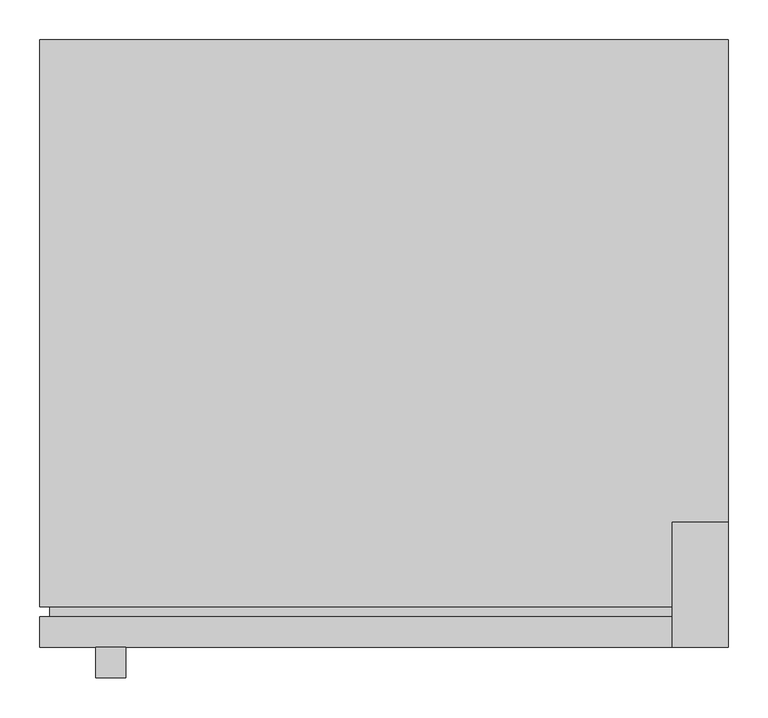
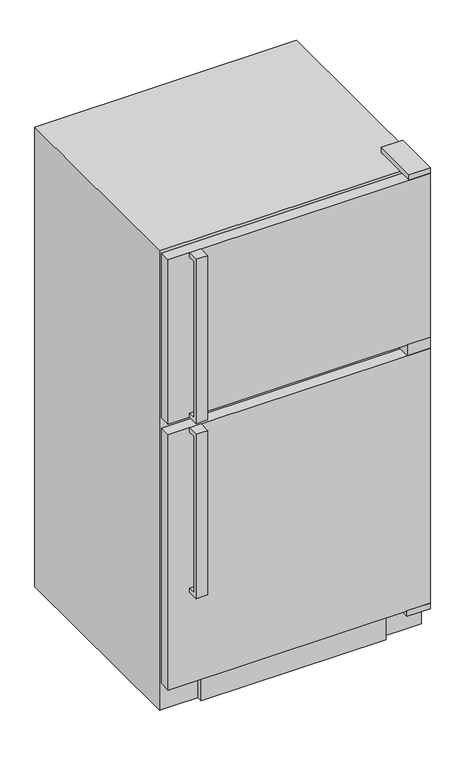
"""IFC4 building model written with IfcOpenShell, lengths in millimetres: proxy geometry, R7000 - Refrigerator, 14 Cubic Feet1 : R7000 - Refrigerator, 14 Cubic Feet 2."""

from ifc_helpers import new_model, si_unit, point, frame, frame_2d, origin, origin_with_axes, place, context, project, spatial, polyline, circle_curve, trimmed, segment, composite_curve, outline, extrude, source, transform, mapped, element, save


def specialty_equipment_468ee7b3(model_context):
    return source(origin(), model_context, "Body", "SweptSolid", [
        extrude(outline(polyline([(-381.0, 1016.0), (-342.9, 1016.0), (-342.9, 1001.1256358), (-368.3159299, 1001.1256358), (-368.3159299, 457.3433737), (-342.9, 457.3433737), (-342.9, 443.3974927), (-381.0, 443.3974927), (-381.0, 1016.0)])), frame((-361.95, 0.0, 0.0), z_axis=(1.0, 0.0, 0.0), x_axis=(0.0, 1.0, 0.0)), (0.0, 0.0, 1.0), 38.1),
        extrude(outline(polyline([(-381.0, 1625.6), (-342.9, 1625.6), (-342.9, 1610.7256358), (-368.3159299, 1610.7256358), (-368.3159299, 1066.9433737), (-342.9, 1066.9433737), (-342.9, 1052.9974927), (-381.0, 1052.9974927), (-381.0, 1625.6)])), frame((-361.95, 0.0, 0.0), z_axis=(1.0, 0.0, 0.0), x_axis=(0.0, 1.0, 0.0)), (0.0, 0.0, 1.0), 38.1),
        extrude(outline(polyline([(431.8, -342.9), (355.4130819, -342.9), (355.4130819, -292.1), (431.8, -292.1), (431.8, -342.9)])), frame((0.0, 0.0, 107.8907444), z_axis=(0.0, 0.0, 1.0), x_axis=(1.0, 0.0, 0.0)), (0.0, 0.0, 1.0), 19.05),
        extrude(outline(polyline([(431.8, -342.9), (356.3726256, -342.9), (356.3726256, -292.1), (431.8, -292.1), (431.8, -342.9)])), frame((0.0, 0.0, 1015.9039339), z_axis=(0.0, 0.0, 1.0), x_axis=(1.0, 0.0, 0.0)), (0.0, 0.0, 1.0), 37.0935588),
        extrude(outline(polyline([(304.8, -292.1), (304.8, -311.15), (-304.8, -311.15), (-304.8, -292.1), (304.8, -292.1)])), frame((0.0, 0.0, 25.4), z_axis=(0.0, 0.0, 1.0), x_axis=(1.0, 0.0, 0.0)), (0.0, 0.0, 1.0), 82.55),
        extrude(outline(polyline([(431.8, -342.9), (361.95, -342.9), (361.95, -186.0315495), (431.8, -186.0315495), (431.8, -342.9)])), frame((0.0, 0.0, 1625.6581185), z_axis=(0.0, 0.0, 1.0), x_axis=(1.0, 0.0, 0.0)), (0.0, 0.0, 1.0), 19.05),
        extrude(outline(polyline([(419.1, -304.8), (-419.1, -304.8), (-419.1, -292.1), (419.1, -292.1), (419.1, -304.8)])), frame((0.0, 0.0, 1062.6629034), z_axis=(0.0, 0.0, 1.0), x_axis=(1.0, 0.0, 0.0)), (0.0, 0.0, 1.0), 548.0627325),
        extrude(outline(polyline([(431.8, -342.9), (-431.8, -342.9), (-431.8, -304.8), (431.8, -304.8), (431.8, -342.9)])), frame((0.0, 0.0, 1052.9974927), z_axis=(0.0, 0.0, 1.0), x_axis=(1.0, 0.0, 0.0)), (0.0, 0.0, 1.0), 572.6025073),
        extrude(outline(polyline([(419.1, -304.8), (-419.1, -304.8), (-419.1, -292.1), (419.1, -292.1), (419.1, -304.8)])), frame((0.0, 0.0, 149.0357475), z_axis=(0.0, 0.0, 1.0), x_axis=(1.0, 0.0, 0.0)), (0.0, 0.0, 1.0), 855.7147074),
        extrude(outline(polyline([(431.8, -342.9), (-431.8, -342.9), (-431.8, -304.8), (431.8, -304.8), (431.8, -342.9)])), frame((0.0, 0.0, 126.9407444), z_axis=(0.0, 0.0, 1.0), x_axis=(1.0, 0.0, 0.0)), (0.0, 0.0, 1.0), 888.9631895),
        extrude(outline(polyline([(431.8, 419.1), (431.8, -292.1), (-431.8, -292.1), (-431.8, 419.1), (431.8, 419.1)])), frame((0.0, 0.0, 25.4), z_axis=(0.0, 0.0, 1.0), x_axis=(1.0, 0.0, 0.0)), (0.0, 0.0, 1.0), 1600.2),
        extrude(outline(composite_curve([segment(trimmed(circle_curve(frame_2d((-358.6775617, -224.3320241)), 31.75), [point((-326.9275617, -224.3320241))], [point((-390.4275617, -224.3320241))], False, "CARTESIAN"), True, "CONTINUOUS"), segment(trimmed(circle_curve(frame_2d((-358.6775617, -224.3320241)), 31.75), [point((-390.4275617, -224.3320241))], [point((-326.9275617, -224.3320241))], False, "CARTESIAN"), True, "CONTINUOUS")], self_intersect=False)), origin_with_axes(), (0.0, 0.0, 1.0), 25.4),
        extrude(outline(composite_curve([segment(trimmed(circle_curve(frame_2d((358.6775617, -224.3320241)), 31.75), [point((326.9275617, -224.3320241))], [point((390.4275617, -224.3320241))], False, "CARTESIAN"), True, "CONTINUOUS"), segment(trimmed(circle_curve(frame_2d((358.6775617, -224.3320241)), 31.75), [point((390.4275617, -224.3320241))], [point((326.9275617, -224.3320241))], False, "CARTESIAN"), True, "CONTINUOUS")], self_intersect=False)), origin_with_axes(), (0.0, 0.0, 1.0), 25.4),
        extrude(outline(composite_curve([segment(trimmed(circle_curve(frame_2d((-358.6775617, 353.5179759)), 31.75), [point((-326.9275617, 353.5179759))], [point((-390.4275617, 353.5179759))], False, "CARTESIAN"), True, "CONTINUOUS"), segment(trimmed(circle_curve(frame_2d((-358.6775617, 353.5179759)), 31.75), [point((-390.4275617, 353.5179759))], [point((-326.9275617, 353.5179759))], False, "CARTESIAN"), True, "CONTINUOUS")], self_intersect=False)), origin_with_axes(), (0.0, 0.0, 1.0), 25.4),
        extrude(outline(composite_curve([segment(trimmed(circle_curve(frame_2d((358.6775617, 353.5179759)), 31.75), [point((326.9275617, 353.5179759))], [point((390.4275617, 353.5179759))], False, "CARTESIAN"), True, "CONTINUOUS"), segment(trimmed(circle_curve(frame_2d((358.6775617, 353.5179759)), 31.75), [point((390.4275617, 353.5179759))], [point((326.9275617, 353.5179759))], False, "CARTESIAN"), True, "CONTINUOUS")], self_intersect=False)), origin_with_axes(), (0.0, 0.0, 1.0), 25.4),
    ])


if __name__ == "__main__":
    model = new_model("IFC4")
    model_context = context("Model", 3, world=origin())
    ifc_project = project(units=[si_unit("LENGTHUNIT", "METRE", prefix="MILLI")], contexts=[model_context])
    site = spatial("IfcSite", under=ifc_project)
    building = spatial("IfcBuilding", under=site)
    placement = place(None, origin())
    specialty_equipment_shape = specialty_equipment_468ee7b3(model_context)
    element("IfcBuildingElementProxy", 1, Name="R7000 - Refrigerator, 14 Cubic Feet1 : R7000 - Refrigerator, 14 Cubic Feet 2", ObjectType="R7000 - Refrigerator, 14 Cubic Feet1 : R7000 - Refrigerator, 14 Cubic Feet 2", at=placement, inside=building, context=model_context, shape_type="MappedRepresentation", body=[
        mapped(specialty_equipment_shape, transform((0.0, 0.0, 0.0), x_axis=(1.0, 0.0, 0.0), y_axis=(0.0, 1.0, 0.0), z_axis=(0.0, 0.0, 1.0))),
    ])
    save(model, "model.ifc")
